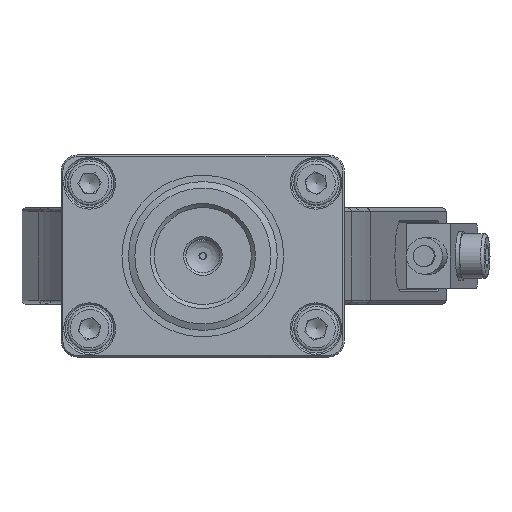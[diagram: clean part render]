
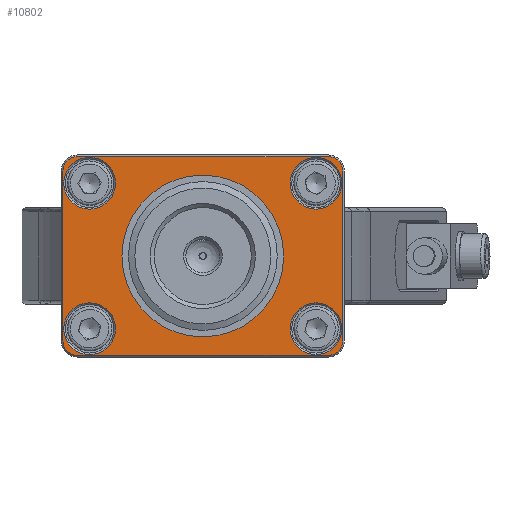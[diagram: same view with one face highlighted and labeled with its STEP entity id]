
A CAD part, front view. The second image highlights one B-rep face of the part: STEP entity #10802.
In plain terms, the highlighted planar face has unit normal (0, -1, 0).
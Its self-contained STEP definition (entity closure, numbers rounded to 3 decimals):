
#8799=FACE_BOUND('',#13739,.T.);
#8800=FACE_BOUND('',#13740,.T.);
#8801=FACE_BOUND('',#13741,.T.);
#8802=FACE_BOUND('',#13742,.T.);
#8803=FACE_BOUND('',#13743,.T.);
#8804=FACE_BOUND('',#13744,.T.);
#10171=CIRCLE('',#29247,1.8);
#10172=CIRCLE('',#29250,1.8);
#10173=CIRCLE('',#29253,1.8);
#10174=CIRCLE('',#29256,1.8);
#10175=CIRCLE('',#29259,3.2);
#10176=CIRCLE('',#29261,3.2);
#10177=CIRCLE('',#29263,3.2);
#10178=CIRCLE('',#29265,3.2);
#10180=CIRCLE('',#29269,10.);
#10802=ADVANCED_FACE('',(#8799,#8800,#8801,#8802,#8803,#8804),#11889,.F.);
#11889=PLANE('',#29270);
#13739=EDGE_LOOP('',(#15788));
#13740=EDGE_LOOP('',(#15789));
#13741=EDGE_LOOP('',(#15790));
#13742=EDGE_LOOP('',(#15791));
#13743=EDGE_LOOP('',(#15792));
#13744=EDGE_LOOP('',(#15793,#15794,#15795,#15796,#15797,#15798,#15799,#15800));
#15788=ORIENTED_EDGE('',*,*,#22823,.F.);
#15789=ORIENTED_EDGE('',*,*,#22821,.F.);
#15790=ORIENTED_EDGE('',*,*,#22820,.F.);
#15791=ORIENTED_EDGE('',*,*,#22819,.F.);
#15792=ORIENTED_EDGE('',*,*,#22818,.F.);
#15793=ORIENTED_EDGE('',*,*,#22815,.F.);
#15794=ORIENTED_EDGE('',*,*,#22814,.F.);
#15795=ORIENTED_EDGE('',*,*,#22812,.F.);
#15796=ORIENTED_EDGE('',*,*,#22810,.F.);
#15797=ORIENTED_EDGE('',*,*,#22807,.F.);
#15798=ORIENTED_EDGE('',*,*,#22805,.F.);
#15799=ORIENTED_EDGE('',*,*,#22803,.F.);
#15800=ORIENTED_EDGE('',*,*,#22817,.F.);
#20804=VERTEX_POINT('',#37834);
#20805=VERTEX_POINT('',#37836);
#20806=VERTEX_POINT('',#37840);
#20807=VERTEX_POINT('',#37844);
#20808=VERTEX_POINT('',#37848);
#20809=VERTEX_POINT('',#37852);
#20810=VERTEX_POINT('',#37856);
#20811=VERTEX_POINT('',#37860);
#20812=VERTEX_POINT('',#37866);
#20813=VERTEX_POINT('',#37869);
#20814=VERTEX_POINT('',#37872);
#20815=VERTEX_POINT('',#37875);
#20817=VERTEX_POINT('',#37881);
#22803=EDGE_CURVE('',#20804,#20805,#10171,.T.);
#22805=EDGE_CURVE('',#20805,#20806,#25302,.T.);
#22807=EDGE_CURVE('',#20806,#20807,#10172,.T.);
#22810=EDGE_CURVE('',#20807,#20808,#25306,.T.);
#22812=EDGE_CURVE('',#20808,#20809,#10173,.T.);
#22814=EDGE_CURVE('',#20809,#20810,#25309,.T.);
#22815=EDGE_CURVE('',#20810,#20811,#10174,.T.);
#22817=EDGE_CURVE('',#20811,#20804,#25311,.T.);
#22818=EDGE_CURVE('',#20812,#20812,#10175,.T.);
#22819=EDGE_CURVE('',#20813,#20813,#10176,.T.);
#22820=EDGE_CURVE('',#20814,#20814,#10177,.T.);
#22821=EDGE_CURVE('',#20815,#20815,#10178,.T.);
#22823=EDGE_CURVE('',#20817,#20817,#10180,.T.);
#25302=LINE('',#37839,#27177);
#25306=LINE('',#37849,#27181);
#25309=LINE('',#37857,#27184);
#25311=LINE('',#37863,#27186);
#27177=VECTOR('',#31613,1.);
#27181=VECTOR('',#31623,1.);
#27184=VECTOR('',#31632,1.);
#27186=VECTOR('',#31640,1.);
#29247=AXIS2_PLACEMENT_3D('',#37835,#31608,#31609);
#29250=AXIS2_PLACEMENT_3D('',#37843,#31617,#31618);
#29253=AXIS2_PLACEMENT_3D('',#37853,#31627,#31628);
#29256=AXIS2_PLACEMENT_3D('',#37859,#31635,#31636);
#29259=AXIS2_PLACEMENT_3D('',#37865,#31643,#31644);
#29261=AXIS2_PLACEMENT_3D('',#37868,#31647,#31648);
#29263=AXIS2_PLACEMENT_3D('',#37871,#31651,#31652);
#29265=AXIS2_PLACEMENT_3D('',#37874,#31655,#31656);
#29269=AXIS2_PLACEMENT_3D('',#37880,#31663,#31664);
#29270=AXIS2_PLACEMENT_3D('',#37882,#31665,#31666);
#31608=DIRECTION('',(0.,1.,0.));
#31609=DIRECTION('',(1.,0.,0.));
#31613=DIRECTION('',(-1.,0.,0.));
#31617=DIRECTION('',(0.,1.,0.));
#31618=DIRECTION('',(1.,0.,0.));
#31623=DIRECTION('',(0.,0.,1.));
#31627=DIRECTION('',(0.,1.,0.));
#31628=DIRECTION('',(1.,0.,0.));
#31632=DIRECTION('',(1.,0.,0.));
#31635=DIRECTION('',(0.,1.,0.));
#31636=DIRECTION('',(1.,0.,0.));
#31640=DIRECTION('',(0.,0.,-1.));
#31643=DIRECTION('',(0.,-1.,0.));
#31644=DIRECTION('',(-1.,0.,0.));
#31647=DIRECTION('',(0.,-1.,0.));
#31648=DIRECTION('',(-1.,0.,0.));
#31651=DIRECTION('',(0.,-1.,0.));
#31652=DIRECTION('',(-1.,0.,0.));
#31655=DIRECTION('',(0.,-1.,0.));
#31656=DIRECTION('',(-1.,0.,0.));
#31663=DIRECTION('',(0.,-1.,0.));
#31664=DIRECTION('',(1.,0.,0.));
#31665=DIRECTION('',(0.,1.,0.));
#31666=DIRECTION('',(1.,0.,0.));
#37834=CARTESIAN_POINT('',(17.3,-30.5,-23.));
#37835=CARTESIAN_POINT('',(15.5,-30.5,-23.));
#37836=CARTESIAN_POINT('',(15.5,-30.5,-24.8));
#37839=CARTESIAN_POINT('',(0.,-30.5,-24.8));
#37840=CARTESIAN_POINT('',(-15.5,-30.5,-24.8));
#37843=CARTESIAN_POINT('',(-15.5,-30.5,-23.));
#37844=CARTESIAN_POINT('',(-17.3,-30.5,-23.));
#37848=CARTESIAN_POINT('',(-17.3,-30.5,-2.));
#37849=CARTESIAN_POINT('',(-17.3,-30.5,-12.5));
#37852=CARTESIAN_POINT('',(-15.5,-30.5,-0.2));
#37853=CARTESIAN_POINT('',(-15.5,-30.5,-2.));
#37856=CARTESIAN_POINT('',(15.5,-30.5,-0.2));
#37857=CARTESIAN_POINT('',(0.,-30.5,-0.2));
#37859=CARTESIAN_POINT('',(15.5,-30.5,-2.));
#37860=CARTESIAN_POINT('',(17.3,-30.5,-2.));
#37863=CARTESIAN_POINT('',(17.3,-30.5,-12.5));
#37865=CARTESIAN_POINT('',(14.,-30.5,-3.5));
#37866=CARTESIAN_POINT('',(10.8,-30.5,-3.5));
#37868=CARTESIAN_POINT('',(14.,-30.5,-21.5));
#37869=CARTESIAN_POINT('',(10.8,-30.5,-21.5));
#37871=CARTESIAN_POINT('',(-14.,-30.5,-21.5));
#37872=CARTESIAN_POINT('',(-17.2,-30.5,-21.5));
#37874=CARTESIAN_POINT('',(-14.,-30.5,-3.5));
#37875=CARTESIAN_POINT('',(-17.2,-30.5,-3.5));
#37880=CARTESIAN_POINT('',(0.,-30.5,-12.5));
#37881=CARTESIAN_POINT('',(10.,-30.5,-12.5));
#37882=CARTESIAN_POINT('',(0.,-30.5,-12.5));
